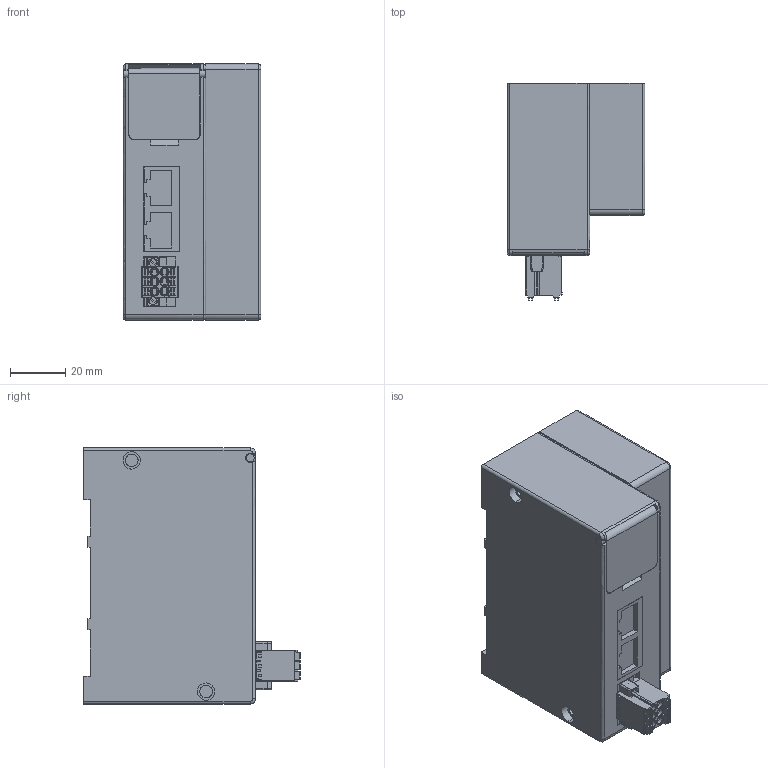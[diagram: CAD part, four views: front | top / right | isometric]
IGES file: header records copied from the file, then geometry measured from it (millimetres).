
Start section: ------------------------------------------------------------------------
Bounding box: 50 x 78.8 x 93 mm (x, y, z)
Volume: 253333.8 mm3; surface area: 30831.8 mm2
Topology: 1 solids, 1 shells, 653 faces, 1723 edges, 1113 vertices
Faces by surface type: bspline 653
